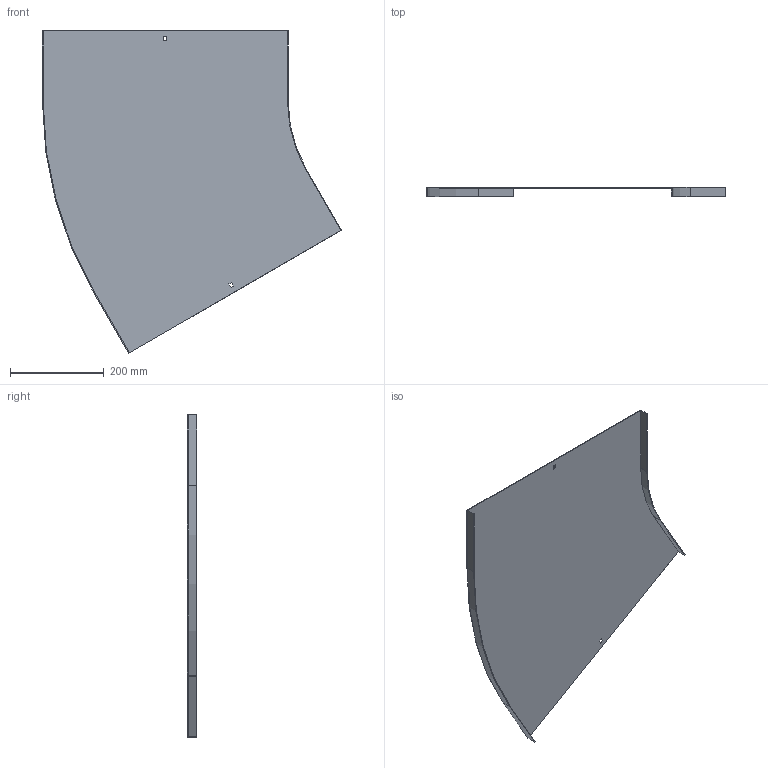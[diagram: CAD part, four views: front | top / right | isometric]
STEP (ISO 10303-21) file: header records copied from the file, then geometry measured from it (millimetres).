
FILE_DESCRIPTION (( 'STEP AP214' ), '1' );
FILE_NAME ('12N3P500.step', '2025-02-21T13:33:58', ( '' ), ( '' ), 'SwSTEP 2.0', 'SolidWorks 2023', '' );
FILE_SCHEMA (( 'AUTOMOTIVE_DESIGN' ));
Length unit declared in the file: millimetre
Products named in the file (1): 12N3P500
Bounding box: 636.65 x 20 x 685.65 mm (x, y, z)
Volume: 493727.1 mm3; surface area: 661839.8 mm2
Topology: 1 solids, 1 shells, 26 faces, 72 edges, 48 vertices
Faces by surface type: plane 22, cylinder 4
Entity records: 855 total; most frequent: CARTESIAN_POINT 147, ORIENTED_EDGE 144, DIRECTION 134, EDGE_CURVE 72, VECTOR 64, LINE 64, VERTEX_POINT 48, AXIS2_PLACEMENT_3D 35
